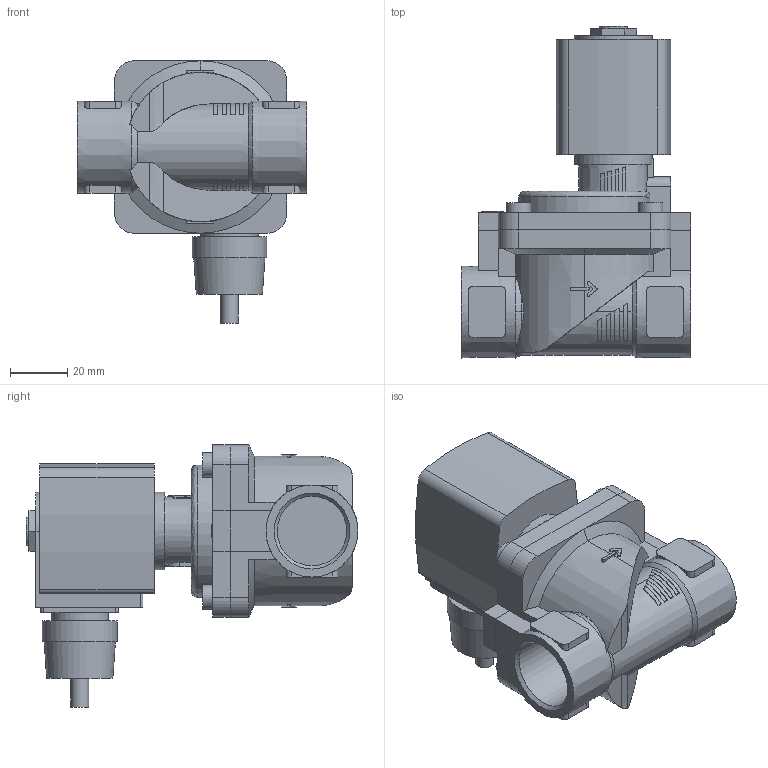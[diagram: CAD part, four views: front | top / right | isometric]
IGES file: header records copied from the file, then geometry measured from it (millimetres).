
Start section: Data from Parasolid IGES Translator 26.0.171, Copyright(c) 2006 Siemens PLM Software. All Rights Reserved.
Global section: file name: 6281-370117-2_2-Way_Solenoid_Valve__Servo-assisted__General_Purpose.igs; native system: By Siemens PLM Incorporated; preprocessor: XPlus GENERIC/IGES 26.0.171; author: Noname; organization: Noname; date: 20240820.211908; units: millimetre
Bounding box: 80 x 115.5 x 91.3 mm (x, y, z)
Surface area: 46196.8 mm2 (no closed solid volume)
Topology: 0 solids, 0 shells, 312 faces, 1614 edges, 1589 vertices
Faces by surface type: extrusion 184, revolution 128
